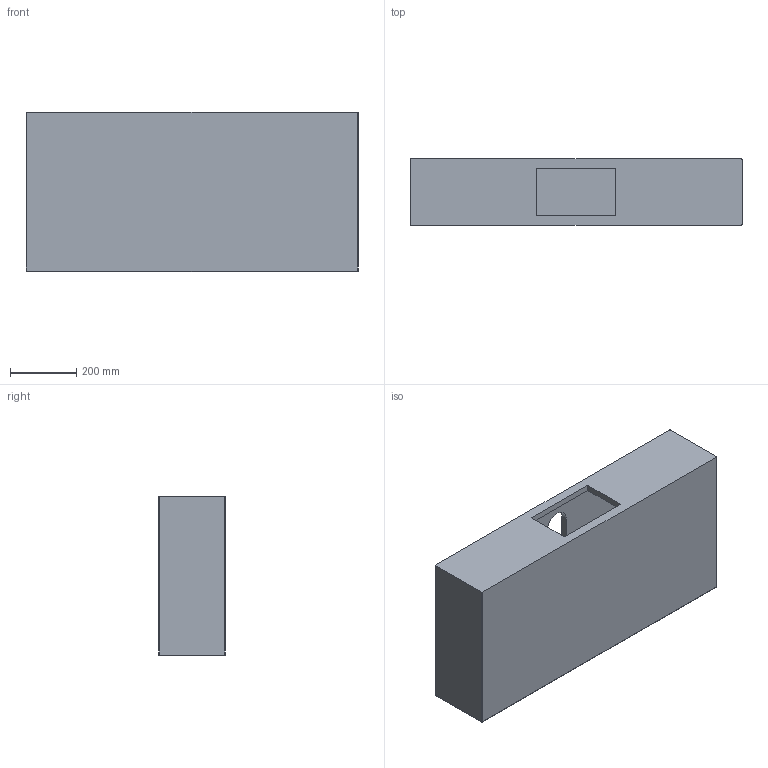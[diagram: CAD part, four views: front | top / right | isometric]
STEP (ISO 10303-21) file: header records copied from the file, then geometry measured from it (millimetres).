
FILE_DESCRIPTION(('CATIA V5 STEP Exchange'),'2;1');
FILE_NAME('C:\Users\Luca\Downloads\mobili next\7530\3D_7530.stp','2023-01-31T14:18:47+00:00',('none'),('none'),'CATIA Version 5 Release 19 SP 5 (IN-10)','CATIA V5 STEP AP214','none');
FILE_SCHEMA(('AUTOMOTIVE_DESIGN { 1 0 10303 214 1 1 1 1 }'));
Length unit declared in the file: millimetre
Products named in the file (1): ART. 7530
Bounding box: 1000 x 200 x 480 mm (x, y, z)
Volume: 25330731.1 mm3; surface area: 2831055.5 mm2
Topology: 2 solids, 2 shells, 113 faces, 262 edges, 142 vertices
Faces by surface type: cylinder 44, plane 31, bspline 20, sphere 16, torus 2
Entity records: 4315 total; most frequent: CARTESIAN_POINT 2021, ORIENTED_EDGE 500, DIRECTION 372, EDGE_CURVE 250, AXIS2_PLACEMENT_3D 172, VERTEX_POINT 142, EDGE_LOOP 118, ADVANCED_FACE 113
